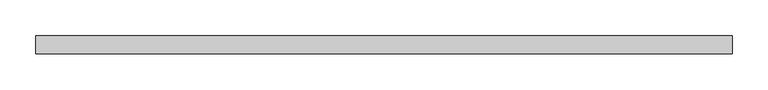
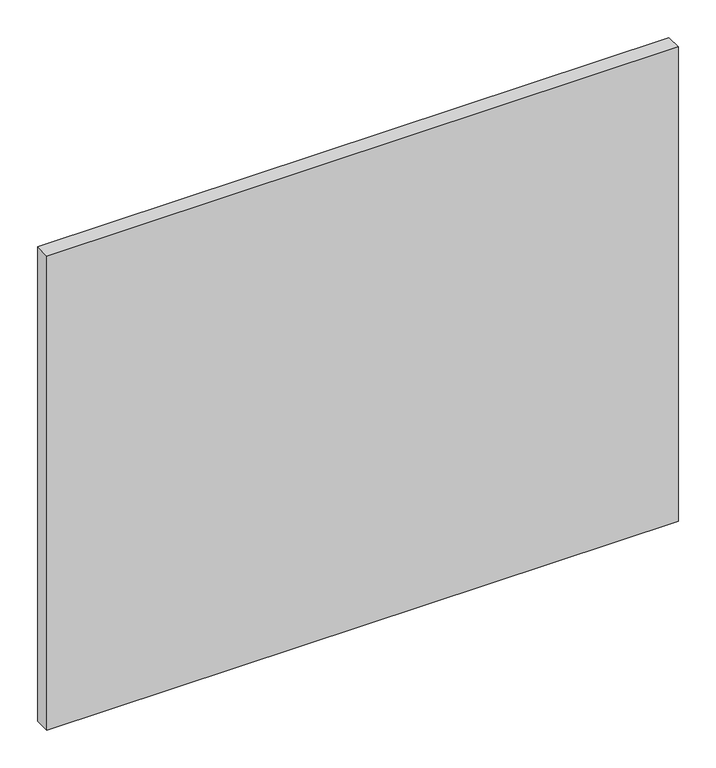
"""IFC4 building model written with IfcOpenShell, lengths in millimetres: plate geometry, 系统嵌板 : 玻璃."""

from ifc_helpers import new_model, si_unit, origin, origin_with_axes, place, context, project, spatial, polyline, outline, extrude, source, transform, mapped, element, save


def plate_5c85ba46(model_context):
    return source(origin(), model_context, "Body", "SweptSolid", [
        extrude(outline(polyline([(485.0, -12.5), (-485.0, -12.5), (-485.0, 12.5), (485.0, 12.5), (485.0, -12.5)])), origin_with_axes(), (0.0, 0.0, 1.0), 770.0),
    ])


if __name__ == "__main__":
    model = new_model("IFC4")
    model_context = context("Model", 3, world=origin())
    ifc_project = project(units=[si_unit("LENGTHUNIT", "METRE", prefix="MILLI")], contexts=[model_context])
    site = spatial("IfcSite", under=ifc_project)
    building = spatial("IfcBuilding", under=site)
    placement = place(None, origin())
    plate_shape = plate_5c85ba46(model_context)
    element("IfcPlate", 1, ObjectType="系统嵌板 : 玻璃", at=placement, inside=building, context=model_context, shape_type="MappedRepresentation", body=[
        mapped(plate_shape, transform((0.0, 0.0, 0.0), x_axis=(1.0, 0.0, 0.0), y_axis=(0.0, 1.0, 0.0), z_axis=(0.0, 0.0, 1.0))),
    ])
    save(model, "model.ifc")
